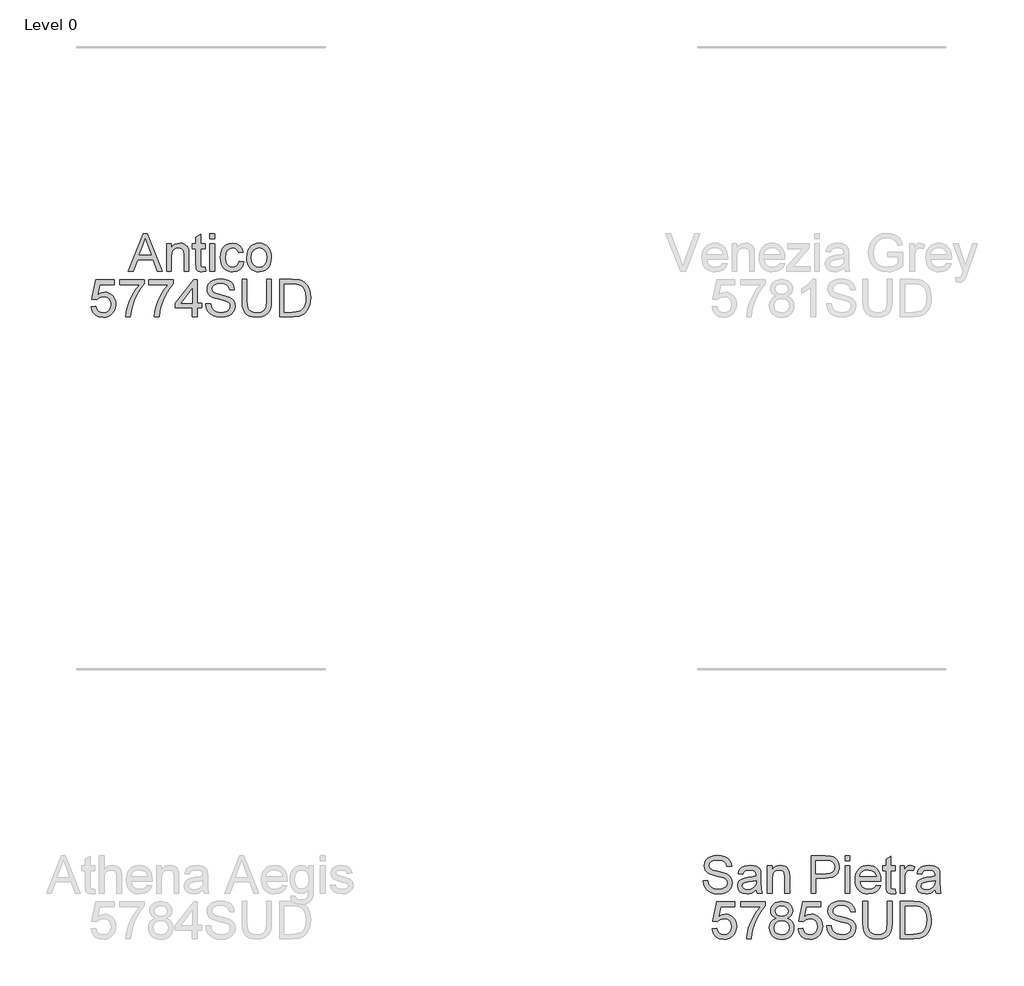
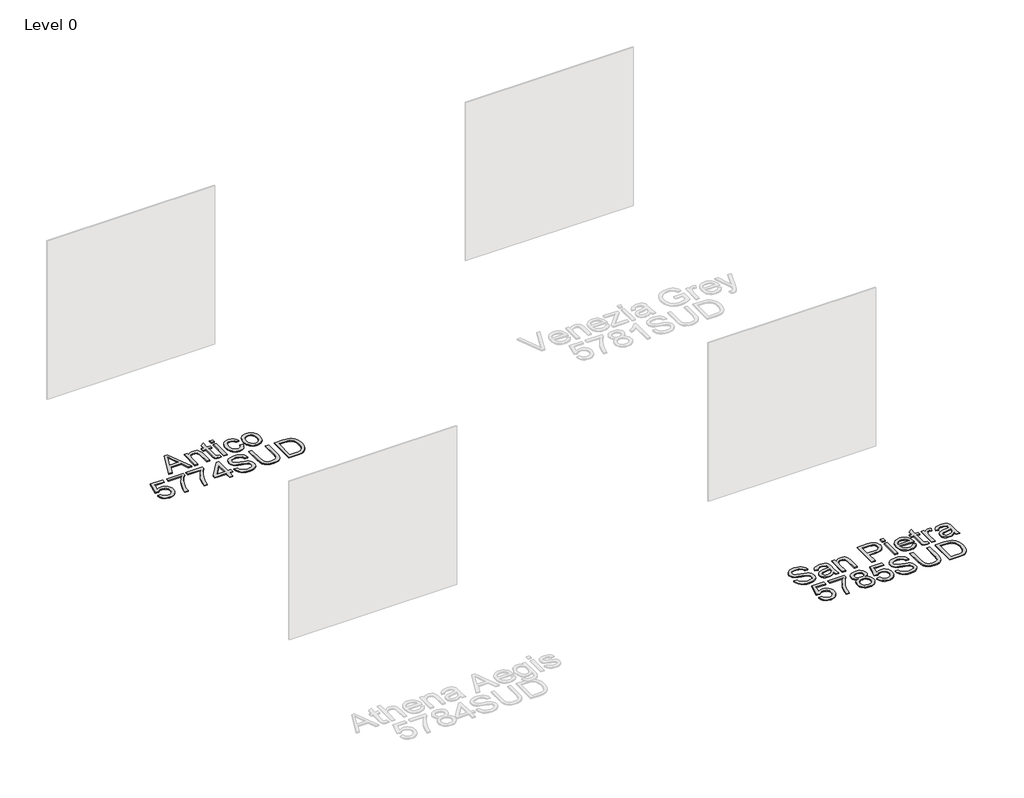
# One storey, part 3 of 12: 2 proxies.
"""IFC4 building model written with IfcOpenShell, lengths in millimetres."""

import ifcopenshell
import ifcopenshell.guid

model = None  # the IFC model being written
_history = None  # IfcOwnerHistory: only IFC2X3 demands one
_inside = {}  # id of a spatial element -> (the spatial element, [elements in it])
_under = {}  # id of a project, library or spatial element -> (it, [spatial elements below it])
_declared = {}  # id of a project -> (the project, [libraries it declares])
_typed = {}  # id of a type object -> (the type object, [elements of that type])
_made_of = {}  # id of a material, layer set ... -> (it, [elements and type objects made of it])


def new_model(schema):
    """Start an empty IFC model of exactly this schema.

    Asked for "IFC4X3", IfcOpenShell would pick the latest addendum, in which some entities
    have other attributes; the version numbers below select the first issue.
    IFC2X3 requires an IfcOwnerHistory on every rooted entity: one is made here for all.
    """
    global model, _history
    if schema == "IFC4X3":
        model = ifcopenshell.file(schema_version=(4, 3, 0, 0))
    else:
        model = ifcopenshell.file(schema=schema)
    _inside.clear()
    _under.clear()
    _declared.clear()
    _typed.clear()
    _made_of.clear()
    _history = None
    if model.schema == "IFC2X3":
        org = make("IfcOrganization", Name="unknown")
        user = make(
            "IfcPersonAndOrganization",
            ThePerson=make("IfcPerson", FamilyName="unknown"),
            TheOrganization=org,
        )
        app = make(
            "IfcApplication",
            ApplicationDeveloper=org,
            Version="unknown",
            ApplicationFullName="unknown",
            ApplicationIdentifier="unknown",
        )
        _history = make(
            "IfcOwnerHistory",
            OwningUser=user,
            OwningApplication=app,
            ChangeAction="ADDED",
            CreationDate=0,
        )
    return model


def make(cls, **values):
    """One entity of the class cls with the attributes given. An attribute that is None is left unset."""
    return model.create_entity(
        cls, **{name: value for name, value in values.items() if value is not None}
    )


def rooted(cls, **values):
    """An entity with a GlobalId (a new one), such as an element, a storey or a relation."""
    return make(cls, GlobalId=ifcopenshell.guid.new(), OwnerHistory=_history, **values)


def si_unit(unit_type, name, prefix=None):
    """IfcSIUnit, for example si_unit("LENGTHUNIT", "METRE", prefix="MILLI")."""
    return make("IfcSIUnit", UnitType=unit_type, Prefix=prefix, Name=name)


def assignment(units):
    """IfcUnitAssignment: the units of a project."""
    return None if units is None else make("IfcUnitAssignment", Units=units)


def point(xyz):
    """IfcCartesianPoint."""
    return None if xyz is None else make("IfcCartesianPoint", Coordinates=xyz)


def direction(xyz):
    """IfcDirection."""
    return None if xyz is None else make("IfcDirection", DirectionRatios=xyz)


def frame(location, z_axis=None, x_axis=None):
    """IfcAxis2Placement3D, a coordinate frame: its origin and axes. An axis left out is left unset."""
    return make(
        "IfcAxis2Placement3D",
        Location=point(location),
        Axis=direction(z_axis),
        RefDirection=direction(x_axis),
    )


def origin():
    """The frame at (0, 0, 0) with its axes left unset."""
    return frame((0.0, 0.0, 0.0))


def origin_with_axes():
    """The frame at (0, 0, 0) with the z axis (0, 0, 1) and the x axis (1, 0, 0) written out."""
    return frame((0.0, 0.0, 0.0), z_axis=(0.0, 0.0, 1.0), x_axis=(1.0, 0.0, 0.0))


def place(relative_to, where):
    """IfcLocalPlacement: puts the frame where relative to a parent placement (None: the world)."""
    return make(
        "IfcLocalPlacement", PlacementRelTo=relative_to, RelativePlacement=where
    )


def context(
    kind, dimensions, precision=None, world=None, true_north=None, identifier=None
):
    """IfcGeometricRepresentationContext, for example the 3D "Model" context."""
    return make(
        "IfcGeometricRepresentationContext",
        ContextIdentifier=identifier,
        ContextType=kind,
        CoordinateSpaceDimension=dimensions,
        Precision=precision,
        WorldCoordinateSystem=world,
        TrueNorth=true_north,
    )


def project(units=None, contexts=None):
    """IfcProject with its units and contexts."""
    return rooted(
        "IfcProject",
        Name="project",
        RepresentationContexts=contexts,
        UnitsInContext=assignment(units),
    )


def spatial(cls, under=None, at=None, **own):
    """A site, building, storey or space (cls), placed at a placement, below another one or the project."""
    s = rooted(cls, ObjectPlacement=at, **own)
    if under is not None:
        _under.setdefault(under.id(), (under, []))[1].append(s)
    return s


def polyline(points):
    """IfcPolyline through the points."""
    return make("IfcPolyline", Points=[point(p) for p in points])


def outline(outer, holes=None, kind="AREA"):
    """IfcArbitraryClosedProfileDef: a profile drawn as a closed curve; with holes, ...WithVoids."""
    if holes is None:
        return make("IfcArbitraryClosedProfileDef", ProfileType=kind, OuterCurve=outer)
    return make(
        "IfcArbitraryProfileDefWithVoids",
        ProfileType=kind,
        OuterCurve=outer,
        InnerCurves=holes,
    )


def extrude(swept, where, along, depth):
    """IfcExtrudedAreaSolid: the profile swept, set in the frame where, extruded along a direction by depth."""
    return make(
        "IfcExtrudedAreaSolid",
        SweptArea=swept,
        Position=where,
        ExtrudedDirection=direction(along),
        Depth=depth,
    )


def shape(context_of_items, identifier, shape_type, items):
    """IfcShapeRepresentation: the items that make up one representation, for example the "Body"."""
    return make(
        "IfcShapeRepresentation",
        ContextOfItems=context_of_items,
        RepresentationIdentifier=identifier,
        RepresentationType=shape_type,
        Items=items,
    )


def made_of(thing, what):
    """Note that an element or type object is made of a material, layer set ...; save() writes the relation."""
    if what is not None:
        _made_of.setdefault(what.id(), (what, []))[1].append(thing)
    return thing


def element(
    cls,
    number,
    at=None,
    inside=None,
    cuts=None,
    type_object=None,
    material=None,
    context=None,
    identifier="Body",
    shape_type=None,
    held_by="IfcProductDefinitionShape",
    body=None,
    shapes=None,
    **own,
):
    """One element of the class cls, such as IfcWall. Its Tag is "e" and its number.

    at: its placement. inside: the storey or other place that contains it. cuts: it is an
    opening in that element (IfcRelVoidsElement). A single representation is given by context,
    identifier, shape_type and body (its items); several are given by shapes. held_by: the class
    of the entity that holds the representations. save() writes the other relations.
    """
    e = rooted(cls, Tag="e%d" % number, ObjectPlacement=at, **own)
    if body is not None:
        shapes = [shape(context, identifier, shape_type, body)]
    if shapes is not None:
        e.Representation = make(held_by, Representations=shapes)
    if inside is not None:
        _inside.setdefault(inside.id(), (inside, []))[1].append(e)
    if cuts is not None:
        rooted(
            "IfcRelVoidsElement", RelatingBuildingElement=cuts, RelatedOpeningElement=e
        )
    if type_object is not None:
        _typed.setdefault(type_object.id(), (type_object, []))[1].append(e)
    return made_of(e, material)


def aggregate(whole, parts):
    """IfcRelAggregates: a whole, such as a stair, and the parts it consists of."""
    return rooted("IfcRelAggregates", RelatingObject=whole, RelatedObjects=parts)


def save(model, path):
    """Write the relations noted so far, then the file.

    IfcRelAggregates (storeys below a building ...), IfcRelContainedInSpatialStructure (elements
    in a storey), IfcRelDefinesByType, IfcRelAssociatesMaterial and IfcRelDeclares: one each for
    every whole, place, type object, material and project.
    """
    for whole, parts in _under.values():
        aggregate(whole, parts)
    for where, things in _inside.values():
        rooted(
            "IfcRelContainedInSpatialStructure",
            RelatedElements=things,
            RelatingStructure=where,
        )
    for kind, things in _typed.values():
        rooted("IfcRelDefinesByType", RelatedObjects=things, RelatingType=kind)
    for what, things in _made_of.values():
        rooted("IfcRelAssociatesMaterial", RelatedObjects=things, RelatingMaterial=what)
    for by, libraries in _declared.values():
        rooted("IfcRelDeclares", RelatingContext=by, RelatedDefinitions=libraries)
    model.write(path)


model = new_model("IFC4")

# Units and contexts
model_context = context("Model", 3, world=origin())
ifc_project = project(units=[si_unit("LENGTHUNIT", "METRE", prefix="MILLI")], contexts=[model_context])

# Site, building, storey
site = spatial("IfcSite", under=ifc_project)
building = spatial("IfcBuilding", under=site)
storey = spatial("IfcBuildingStorey", under=building, Name="Level 0", Elevation=0.0)

# Proxies
placement = place(None, origin())
element("IfcBuildingElementProxy", 1, Name="300mm Arial", ObjectType="300mm Arial", at=placement, inside=storey, context=model_context, shape_type="SweptSolid", body=[
    extrude(outline(polyline([(-10034.3396299, -12002.860494), (-9914.0422174, -11701.4915635), (-9881.9629075, -11701.4915635), (-9761.665495, -12002.860494), (-9801.4703269, -12002.860494), (-9835.9776581, -11908.6827032), (-9960.1010432, -11908.6827032), (-9994.534798, -12002.860494), (-10034.3396299, -12002.860494)]), holes=[polyline([(-9946.2686802, -11871.0115869), (-9849.7364447, -11871.0115869), (-9876.8861359, -11796.9201531), (-9898.0025624, -11739.1626798), (-9916.7645442, -11790.44543), (-9946.2686802, -11871.0115869)])]), origin_with_axes(), (0.0, 0.0, 1.0), 10.0),
    extrude(outline(polyline([(-9726.1280943, -12002.860494), (-9726.1280943, -11781.5426857), (-9688.456978, -11781.5426857), (-9688.456978, -11812.4447733), (-9675.369576, -11796.8649708), (-9659.6518178, -11785.7365404), (-9641.3037033, -11779.0594822), (-9620.3252325, -11776.8337961), (-9601.7563888, -11778.6272209), (-9584.7510435, -11784.0074951), (-9570.5691926, -11792.303234), (-9560.4708319, -11802.8430532), (-9549.1768546, -11830.5445674), (-9547.1902918, -11866.964885), (-9547.1902918, -12002.860494), (-9584.8614081, -12002.860494), (-9584.8614081, -11872.0416565), (-9589.2024157, -11838.7115477), (-9595.2080893, -11828.7879309), (-9604.5430949, -11821.0900002), (-9616.5084568, -11816.1511844), (-9630.4051992, -11814.5049125), (-9652.4689218, -11818.2021265), (-9671.2768888, -11829.2937687), (-9678.7931778, -11838.3482643), (-9684.1619557, -11850.7228949), (-9688.456978, -11885.4325611), (-9688.456978, -12002.860494), (-9726.1280943, -12002.860494)])), origin_with_axes(), (0.0, 0.0, 1.0), 10.0),
    extrude(outline(polyline([(-9415.3413848, -11971.4433716), (-9410.6324952, -12003.96414), (-9438.8122561, -12007.5693835), (-9456.8936561, -12006.005885), (-9470.3765312, -12001.3153896), (-9479.9046749, -11994.0865084), (-9486.1218806, -11984.9078526), (-9489.5431832, -11969.1441091), (-9490.6836174, -11942.1599648), (-9490.6836174, -11819.213802), (-9518.9369546, -11819.213802), (-9518.9369546, -11781.5426857), (-9490.6836174, -11781.5426857), (-9490.6836174, -11727.758338), (-9453.0125011, -11705.6118419), (-9453.0125011, -11781.5426857), (-9415.3413848, -11781.5426857), (-9415.3413848, -11819.213802), (-9453.0125011, -11819.213802), (-9453.0125011, -11941.0563188), (-9451.0259383, -11960.4804881), (-9444.5880034, -11967.3598814), (-9431.7489218, -11969.8982672), (-9415.3413848, -11971.4433716)])), origin_with_axes(), (0.0, 0.0, 1.0), 10.0),
    extrude(outline(polyline([(-9377.6702685, -11739.1626798), (-9377.6702685, -11701.4915635), (-9339.9991522, -11701.4915635), (-9339.9991522, -11739.1626798), (-9377.6702685, -11739.1626798)])), origin_with_axes(), (0.0, 0.0, 1.0), 10.0),
    extrude(outline(polyline([(-9377.6702685, -12002.860494), (-9377.6702685, -11781.5426857), (-9339.9991522, -11781.5426857), (-9339.9991522, -12002.860494), (-9377.6702685, -12002.860494)])), origin_with_axes(), (0.0, 0.0, 1.0), 10.0),
    extrude(outline(polyline([(-9142.2257916, -11922.8093718), (-9104.5546752, -11927.5182614), (-9115.0577062, -11961.0231141), (-9134.7945752, -11986.3425924), (-9161.9074783, -12002.2626857), (-9194.5386113, -12007.5693835), (-9215.6665341, -12005.7184772), (-9234.6101576, -12000.1657584), (-9251.3694817, -11990.9112269), (-9265.9445065, -11977.9548829), (-9277.7420223, -11961.5404481), (-9286.1688192, -11941.9116444), (-9291.2248974, -11919.0684718), (-9292.9102568, -11893.0109302), (-9290.0315802, -11859.4876834), (-9281.3955503, -11830.4342028), (-9266.8642115, -11806.9725286), (-9246.299608, -11790.2247008), (-9221.6974996, -11780.1815223), (-9195.0536461, -11776.8337961), (-9163.2226564, -11781.4323211), (-9137.7744194, -11795.2278959), (-9119.5182754, -11817.4847566), (-9109.2635648, -11847.4671392), (-9146.9346811, -11852.1760288), (-9153.7680891, -11835.7409006), (-9164.4090759, -11823.9594797), (-9178.26903, -11816.8685543), (-9194.7593405, -11814.5049125), (-9219.1039315, -11819.1586197), (-9238.4269333, -11833.1197414), (-9251.0360887, -11857.1424357), (-9255.2391405, -11891.9808606), (-9251.1280592, -11927.2883351), (-9238.7948153, -11951.3938029), (-9219.8213014, -11965.2721511), (-9195.78941, -11969.8982672), (-9176.2824673, -11967.0103936), (-9160.2887975, -11958.3467726), (-9148.6545294, -11943.6866751), (-9142.2257916, -11922.8093718)])), origin_with_axes(), (0.0, 0.0, 1.0), 10.0),
    extrude(outline(polyline([(-9081.0102276, -11892.2015898), (-9078.973081, -11863.5389839), (-9072.8616414, -11838.8403064), (-9062.6759086, -11818.1055575), (-9048.4158828, -11801.334737), (-9034.0592879, -11790.6155754), (-9018.212771, -11782.9590314), (-9000.876332, -11778.3651049), (-8982.0499709, -11776.8337961), (-8961.2669374, -11778.698498), (-8942.4750652, -11784.2926036), (-8925.6743544, -11793.6161129), (-8910.8648048, -11806.669026), (-8898.777582, -11823.0098843), (-8890.1438514, -11842.1972296), (-8884.9636131, -11864.2310619), (-8883.2368669, -11889.1113811), (-8886.2902875, -11927.1687735), (-8895.4505492, -11956.1394806), (-8910.4509375, -11977.8353213), (-8931.0247381, -11994.0681143), (-8955.4612996, -12004.1940662), (-8982.0499709, -12007.5693835), (-9003.136507, -12005.7115794), (-9022.1031231, -12000.1381672), (-9038.9498192, -11990.8491468), (-9053.6765953, -11977.8445183), (-9065.6350594, -11961.3450108), (-9074.1768195, -11941.5713536), (-9079.3018755, -11918.5235466), (-9081.0102276, -11892.2015898)]), holes=[polyline([(-9043.3391112, -11892.1280134), (-9038.9797096, -11926.2214773), (-9025.9015047, -11950.5108861), (-9006.2198179, -11965.0514219), (-8982.0499709, -11969.8982672), (-8957.9904884, -11965.0238308), (-8938.3455898, -11950.4005215), (-8925.2673849, -11925.789216), (-8920.9079833, -11890.950791), (-8925.294976, -11857.8506085), (-8938.4559544, -11833.8922936), (-8958.1284441, -11819.3517577), (-8982.0499709, -11814.5049125), (-9006.2198179, -11819.3333636), (-9025.9015047, -11833.8187172), (-9038.9797096, -11858.0529436), (-9043.3391112, -11892.1280134)])]), origin_with_axes(), (0.0, 0.0, 1.0), 10.0),
    extrude(outline(polyline([(-10333.5748447, -12288.7338254), (-10295.9037284, -12284.0249358), (-10288.9875469, -12306.6404815), (-10276.9210175, -12322.8364863), (-10259.7593224, -12332.5761621), (-10237.557644, -12335.8227207), (-10210.5551055, -12331.3069693), (-10190.3215958, -12317.7597148), (-10177.6848493, -12296.7444558), (-10173.4726004, -12269.8246908), (-10177.4181348, -12244.4776213), (-10189.254738, -12225.0902402), (-10209.0743805, -12212.7845875), (-10236.9690328, -12208.6827032), (-10255.2435709, -12210.3197781), (-10270.0416242, -12215.2310027), (-10291.1948389, -12232.2271509), (-10328.8659552, -12227.5182614), (-10295.9037284, -12072.1249066), (-10149.9281527, -12072.1249066), (-10149.9281527, -12109.7960229), (-10265.4430992, -12109.7960229), (-10281.5563306, -12192.790201), (-10254.6457627, -12176.4562404), (-10226.4476077, -12171.0115869), (-10208.1017925, -12172.6992456), (-10191.2504978, -12177.7622215), (-10175.8937238, -12186.2005148), (-10162.0314704, -12198.0141254), (-10150.5558514, -12212.4810848), (-10142.3589807, -12228.8794248), (-10137.4408583, -12247.2091452), (-10135.8014841, -12267.470246), (-10141.7059901, -12305.1413624), (-10149.0866227, -12321.9351754), (-10159.4195082, -12337.3678251), (-10175.0728871, -12353.1729553), (-10193.3382282, -12364.4623341), (-10214.2155314, -12371.2359613), (-10237.7047968, -12373.4938371), (-10274.7045285, -12367.6904986), (-10290.3831992, -12360.4363255), (-10304.1810733, -12350.2804832), (-10315.6612908, -12337.7288093), (-10324.3869919, -12323.2871418), (-10333.5748447, -12288.7338254)])), origin_with_axes(), (0.0, 0.0, 1.0), 10.0),
    extrude(outline(polyline([(-10102.8392574, -12109.7960229), (-10102.8392574, -12072.1249066), (-9905.0658967, -12072.1249066), (-9905.0658967, -12102.5855358), (-9933.2548546, -12138.2608923), (-9961.167901, -12183.6299393), (-9985.7884035, -12234.5540045), (-10004.0997299, -12286.8944154), (-10013.0760505, -12326.0554538), (-10018.0792457, -12368.7849475), (-10055.750362, -12368.7849475), (-10051.6760689, -12329.9550029), (-10040.7775648, -12283.8042066), (-10023.3491552, -12234.8850983), (-9999.6851459, -12187.7502177), (-9972.0572081, -12145.1402856), (-9942.7370131, -12109.7960229), (-10102.8392574, -12109.7960229)])), origin_with_axes(), (0.0, 0.0, 1.0), 10.0),
    extrude(outline(polyline([(-9872.10367, -12109.7960229), (-9872.10367, -12072.1249066), (-9674.3303094, -12072.1249066), (-9674.3303094, -12102.5855358), (-9702.5192673, -12138.2608923), (-9730.4323136, -12183.6299393), (-9755.0528162, -12234.5540045), (-9773.3641425, -12286.8944154), (-9782.3404632, -12326.0554538), (-9787.3436583, -12368.7849475), (-9825.0147746, -12368.7849475), (-9820.9404815, -12329.9550029), (-9810.0419774, -12283.8042066), (-9792.6135679, -12234.8850983), (-9768.9495585, -12187.7502177), (-9741.3216207, -12145.1402856), (-9712.0014257, -12109.7960229), (-9872.10367, -12109.7960229)])), origin_with_axes(), (0.0, 0.0, 1.0), 10.0),
    extrude(outline(polyline([(-9518.9369546, -12368.7849475), (-9518.9369546, -12298.1516044), (-9655.4947512, -12298.1516044), (-9655.4947512, -12260.4804881), (-9509.5191755, -12072.1249066), (-9481.2658383, -12072.1249066), (-9481.2658383, -12260.4804881), (-9443.594722, -12260.4804881), (-9443.594722, -12298.1516044), (-9481.2658383, -12298.1516044), (-9481.2658383, -12368.7849475), (-9518.9369546, -12368.7849475)]), holes=[polyline([(-9518.9369546, -12260.4804881), (-9518.9369546, -12144.0826249), (-9609.1416198, -12260.4804881), (-9518.9369546, -12260.4804881)])]), origin_with_axes(), (0.0, 0.0, 1.0), 10.0),
    extrude(outline(polyline([(-9410.6324952, -12265.1893777), (-9372.9613789, -12265.1893777), (-9368.6387655, -12286.0942721), (-9360.8212731, -12302.8972822), (-9348.6259849, -12316.2330045), (-9331.1699843, -12326.7360355), (-9309.8328286, -12333.5510494), (-9285.9940753, -12335.8227207), (-9265.0064074, -12334.1028724), (-9246.6307018, -12328.9433274), (-9231.740678, -12320.7763471), (-9221.2100559, -12310.0341929), (-9214.9468649, -12297.700949), (-9212.8591346, -12284.7606998), (-9214.4226331, -12272.1515444), (-9219.1131285, -12261.2530403), (-9228.6412722, -12251.9548229), (-9244.7177154, -12244.1465276), (-9299.5689209, -12229.7623415), (-9335.5753712, -12220.2433949), (-9358.6139811, -12211.1843008), (-9377.3667658, -12198.510766), (-9390.6565029, -12183.1516928), (-9398.5751628, -12165.4381747), (-9401.2147162, -12145.7013056), (-9397.9497634, -12123.637583), (-9388.1549053, -12103.0637824), (-9372.0876592, -12085.6261758), (-9350.0055424, -12072.9710352), (-9323.4996447, -12065.2731044), (-9294.1610556, -12062.7071275), (-9262.3760512, -12065.3926661), (-9234.5641723, -12073.4492818), (-9211.7187004, -12086.7114277), (-9194.8329169, -12105.013557), (-9184.1459449, -12127.2152354), (-9179.8969079, -12152.1760288), (-9217.5680242, -12152.1760288), (-9224.4842057, -12129.6984389), (-9238.9051799, -12113.4748429), (-9261.4379521, -12103.6523936), (-9292.6895276, -12100.3782438), (-9324.6768671, -12103.6156054), (-9346.6210281, -12113.3276901), (-9359.3129569, -12127.6199056), (-9363.5435998, -12144.5976597), (-9360.5453616, -12159.0738162), (-9351.5506468, -12170.7172813), (-9330.2870675, -12181.1283418), (-9290.0407772, -12191.7601314), (-9248.5069, -12201.8584922), (-9223.3805597, -12210.669266), (-9201.9054482, -12224.3360821), (-9186.923454, -12241.2034716), (-9178.1218772, -12261.0874934), (-9175.1880183, -12283.8042066), (-9178.5633356, -12307.0267576), (-9188.6892875, -12328.869751), (-9205.1520068, -12347.668521), (-9227.5376262, -12361.7584014), (-9254.4573912, -12370.5599781), (-9284.5225473, -12373.4938371), (-9321.4303085, -12370.3300519), (-9351.8081642, -12360.8386964), (-9376.0056024, -12344.9829824), (-9394.372111, -12322.7261217), (-9406.162729, -12295.6132187), (-9410.6324952, -12265.1893777)])), origin_with_axes(), (0.0, 0.0, 1.0), 10.0),
    extrude(outline(polyline([(-8920.9079833, -12067.4160171), (-8883.2368669, -12067.4160171), (-8883.2368669, -12241.277048), (-8885.7936468, -12281.9923878), (-8893.4639864, -12313.3451308), (-8907.7929901, -12337.533372), (-8930.3257623, -12356.7552063), (-8961.1174853, -12369.3091794), (-9000.2233414, -12373.4938371), (-9038.4738719, -12369.8518053), (-9069.0540627, -12358.92571), (-9091.973111, -12341.0926303), (-9107.2402138, -12316.7296452), (-9115.8210613, -12284.052527), (-9118.6813439, -12241.277048), (-9118.6813439, -12067.4160171), (-9081.0102276, -12067.4160171), (-9081.0102276, -12239.9526728), (-9079.1524235, -12273.8070134), (-9073.5790113, -12297.3790523), (-9063.4806505, -12313.7038158), (-9048.0480008, -12325.8163305), (-9027.9248556, -12333.3211232), (-9003.7550086, -12335.8227207), (-8965.4400988, -12330.8747079), (-8951.0972995, -12324.6896919), (-8939.9642706, -12316.0306694), (-8931.6271449, -12303.8537754), (-8925.6720551, -12287.1151446), (-8920.9079833, -12239.9526728), (-8920.9079833, -12067.4160171)])), origin_with_axes(), (0.0, 0.0, 1.0), 10.0),
    extrude(outline(polyline([(-8817.3124134, -12368.7849475), (-8817.3124134, -12067.4160171), (-8713.3489616, -12067.4160171), (-8659.5646139, -12071.7570246), (-8635.5419196, -12080.12634), (-8615.2716217, -12093.3149095), (-8594.4311066, -12116.270746), (-8579.5870681, -12144.8183889), (-8570.7027179, -12178.406015), (-8567.7412679, -12216.4818015), (-8569.7462248, -12248.8278259), (-8575.7610954, -12277.2926953), (-8584.9213571, -12301.5269217), (-8596.3624871, -12321.1810173), (-8609.5326625, -12336.6964405), (-8623.8800603, -12348.5146496), (-8640.3519767, -12357.2794381), (-8659.8957077, -12363.6345996), (-8708.3457664, -12368.7849475), (-8817.3124134, -12368.7849475)]), holes=[polyline([(-8779.6412971, -12331.1138312), (-8712.9810796, -12331.1138312), (-8685.408324, -12329.7526678), (-8664.4942326, -12325.6691777), (-8648.712095, -12319.1024841), (-8636.535201, -12310.2917103), (-8623.447799, -12293.9853408), (-8613.6161527, -12272.8781114), (-8607.4633263, -12246.8780514), (-8605.4123842, -12215.8931903), (-8609.431495, -12174.8375597), (-8621.4888274, -12144.5240833), (-8639.303513, -12123.7019623), (-8660.5946835, -12111.1203981), (-8682.262933, -12106.5954496), (-8714.0111492, -12105.0871334), (-8779.6412971, -12105.0871334), (-8779.6412971, -12331.1138312)])]), origin_with_axes(), (0.0, 0.0, 1.0), 10.0),
])
element("IfcBuildingElementProxy", 2, Name="300mm Arial", ObjectType="300mm Arial", at=placement, inside=storey, context=model_context, shape_type="SweptSolid", body=[
    extrude(outline(polyline([(-5406.5626326, -16909.2649241), (-5368.8915163, -16909.2649241), (-5364.5689028, -16930.1698185), (-5356.7514104, -16946.9728286), (-5344.5561223, -16960.308551), (-5327.1001216, -16970.8115819), (-5305.7629659, -16977.6265959), (-5281.9242126, -16979.8982672), (-5260.9365448, -16978.1784189), (-5242.5608391, -16973.0188739), (-5227.6708154, -16964.8518936), (-5217.1401933, -16954.1097394), (-5210.8770023, -16941.7764955), (-5208.789272, -16928.8362463), (-5210.3527704, -16916.2270909), (-5215.0432659, -16905.3285868), (-5224.5714096, -16896.0303694), (-5240.6478527, -16888.222074), (-5295.4990582, -16873.837888), (-5331.5055085, -16864.3189414), (-5354.5441185, -16855.2598472), (-5373.2969032, -16842.5863125), (-5386.5866402, -16827.2272392), (-5394.5053002, -16809.5137211), (-5397.1448535, -16789.7768521), (-5393.8799008, -16767.7131294), (-5384.0850427, -16747.1393289), (-5368.0177965, -16729.7017223), (-5345.9356798, -16717.0465817), (-5319.429782, -16709.3486509), (-5290.0911929, -16706.782674), (-5258.3061885, -16709.4682126), (-5230.4943097, -16717.5248283), (-5207.6488378, -16730.7869742), (-5190.7630542, -16749.0891034), (-5180.0760822, -16771.2907818), (-5175.8270452, -16796.2515752), (-5213.4981615, -16796.2515752), (-5220.414343, -16773.7739853), (-5234.8353172, -16757.5503893), (-5257.3680894, -16747.7279401), (-5288.6196649, -16744.4537903), (-5320.6070044, -16747.6911519), (-5342.5511654, -16757.4032365), (-5355.2430942, -16771.695452), (-5359.4737372, -16788.6732061), (-5356.4754989, -16803.1493626), (-5347.4807841, -16814.7928278), (-5326.2172048, -16825.2038882), (-5285.9709146, -16835.8356779), (-5244.4370373, -16845.9340387), (-5219.310697, -16854.7448125), (-5197.8355856, -16868.4116286), (-5182.8535913, -16885.2790181), (-5174.0520146, -16905.1630399), (-5171.1181557, -16927.8797531), (-5174.493473, -16951.102304), (-5184.6194249, -16972.9452975), (-5201.0821442, -16991.7440675), (-5223.4677636, -17005.8339479), (-5250.3875286, -17014.6355246), (-5280.4526846, -17017.5693835), (-5317.3604458, -17014.4055984), (-5347.7383015, -17004.9142429), (-5371.9357398, -16989.0585289), (-5390.3022484, -16966.8016682), (-5402.0928663, -16939.6887651), (-5406.5626326, -16909.2649241)])), origin_with_axes(), (0.0, 0.0, 1.0), 10.0),
    extrude(outline(polyline([(-4978.0536846, -16984.6071568), (-4996.0523112, -17000.0398064), (-5014.5843667, -17010.1381672), (-5034.0729154, -17015.7115794), (-5054.9410216, -17017.5693835), (-5086.4225233, -17013.0996173), (-5109.6450743, -16999.6903186), (-5123.9648809, -16979.3280501), (-5128.7381498, -16953.9993748), (-5126.935528, -16938.3827841), (-5121.5276627, -16924.2009331), (-5113.1859385, -16912.0608273), (-5102.58174, -16902.5694718), (-5076.2046009, -16890.2086368), (-5043.6102561, -16884.5432541), (-5005.0930112, -16878.5835657), (-4978.2744138, -16871.5938078), (-4978.0536846, -16863.2060983), (-4980.6472527, -16846.3938912), (-4988.4279569, -16835.3942195), (-5005.8287752, -16827.2272392), (-5030.0721987, -16824.5049125), (-5052.5130004, -16826.3167313), (-5068.1847734, -16831.7521878), (-5078.8717454, -16841.8045633), (-5086.358144, -16857.4671392), (-5124.0292603, -16852.7582497), (-5117.4901578, -16832.156858), (-5107.7320879, -16815.9700502), (-5093.8445426, -16803.590821), (-5074.9170139, -16794.4121652), (-5051.7680394, -16788.7283884), (-5025.2161564, -16786.8337961), (-4999.7495253, -16788.5076592), (-4979.5620008, -16793.5292485), (-4964.3408832, -16801.0800264), (-4953.7734729, -16810.3414556), (-4946.7653209, -16821.7917827), (-4942.2219783, -16835.9092543), (-4940.3825683, -16868.8714811), (-4940.3825683, -16915.7396473), (-4938.4695819, -16981.1858542), (-4930.9647892, -17012.860494), (-4968.6359055, -17012.860494), (-4978.0536846, -16984.6071568)]), holes=[polyline([(-4978.0536846, -16909.2649241), (-5038.8277902, -16920.8164188), (-5071.238194, -16926.9232599), (-5085.9166856, -16936.8560738), (-5091.0670335, -16951.3506244), (-5088.2619333, -16962.5526311), (-5079.8466327, -16971.7312869), (-5066.0050726, -16977.8565221), (-5046.9211941, -16979.8982672), (-5026.6876844, -16977.64499), (-5008.8086194, -16970.8851583), (-4994.3140688, -16960.9247533), (-4984.2341021, -16949.069756), (-4979.7643359, -16936.8560738), (-4978.2744138, -16919.933502), (-4978.0536846, -16909.2649241)])]), origin_with_axes(), (0.0, 0.0, 1.0), 10.0),
    extrude(outline(polyline([(-4888.5847834, -17012.860494), (-4888.5847834, -16791.5426857), (-4850.9136671, -16791.5426857), (-4850.9136671, -16822.4447733), (-4837.8262651, -16806.8649708), (-4822.1085068, -16795.7365404), (-4803.7603923, -16789.0594822), (-4782.7819216, -16786.8337961), (-4764.2130778, -16788.6272209), (-4747.2077326, -16794.0074951), (-4733.0258817, -16802.303234), (-4722.9275209, -16812.8430532), (-4711.6335437, -16840.5445674), (-4709.6469809, -16876.964885), (-4709.6469809, -17012.860494), (-4747.3180972, -17012.860494), (-4747.3180972, -16882.0416565), (-4751.6591048, -16848.7115477), (-4757.6647783, -16838.7879309), (-4766.999784, -16831.0900002), (-4778.9651459, -16826.1511844), (-4792.8618882, -16824.5049125), (-4814.9256109, -16828.2021265), (-4833.7335779, -16839.2937687), (-4841.2498669, -16848.3482643), (-4846.6186448, -16860.7228949), (-4850.9136671, -16895.4325611), (-4850.9136671, -17012.860494), (-4888.5847834, -17012.860494)])), origin_with_axes(), (0.0, 0.0, 1.0), 10.0),
    extrude(outline(polyline([(-4535.418068, -17012.860494), (-4535.418068, -16711.4915635), (-4423.7290943, -16711.4915635), (-4378.7003381, -16714.3610431), (-4358.6231782, -16719.7229232), (-4342.0960795, -16728.4509235), (-4328.7879484, -16740.9405172), (-4318.3676908, -16757.5871775), (-4311.6354503, -16777.222879), (-4309.3913702, -16798.6795964), (-4310.9065841, -16817.1794622), (-4315.452226, -16834.198603), (-4323.0282959, -16849.7370188), (-4333.6347936, -16863.7947095), (-4348.1960229, -16875.4473717), (-4367.636287, -16883.7707019), (-4391.9555862, -16888.7647), (-4421.1539203, -16890.429366), (-4497.7469517, -16890.429366), (-4497.7469517, -17012.860494), (-4535.418068, -17012.860494)]), holes=[polyline([(-4497.7469517, -16852.7582497), (-4418.9466283, -16852.7582497), (-4385.5429432, -16849.3001589), (-4363.4700235, -16838.9258867), (-4351.1643707, -16822.2792264), (-4347.0624865, -16800.0039716), (-4349.4813106, -16783.0813998), (-4356.7377829, -16768.8075784), (-4367.9305926, -16758.0654241), (-4382.1584288, -16751.7378538), (-4419.8295451, -16749.1626798), (-4497.7469517, -16749.1626798), (-4497.7469517, -16852.7582497)])]), origin_with_axes(), (0.0, 0.0, 1.0), 10.0),
    extrude(outline(polyline([(-4262.3024748, -16749.1626798), (-4262.3024748, -16711.4915635), (-4224.6313585, -16711.4915635), (-4224.6313585, -16749.1626798), (-4262.3024748, -16749.1626798)])), origin_with_axes(), (0.0, 0.0, 1.0), 10.0),
    extrude(outline(polyline([(-4262.3024748, -17012.860494), (-4262.3024748, -16791.5426857), (-4224.6313585, -16791.5426857), (-4224.6313585, -17012.860494), (-4262.3024748, -17012.860494)])), origin_with_axes(), (0.0, 0.0, 1.0), 10.0),
    extrude(outline(polyline([(-4013.1727876, -16946.9360404), (-3976.2374353, -16951.64493), (-3989.5455665, -16979.4752029), (-4010.7815547, -17000.2789297), (-4039.4671532, -17013.2467701), (-4075.1241156, -17017.5693835), (-4098.4984179, -17015.7046817), (-4119.3251374, -17010.1105761), (-4137.604274, -17000.7870668), (-4153.3358278, -16987.7341537), (-4165.9863699, -16971.3151204), (-4175.0224714, -16951.8932503), (-4180.4441323, -16929.4685435), (-4182.2513526, -16904.0409998), (-4180.4257382, -16877.7512327), (-4174.948895, -16854.5792656), (-4165.820823, -16834.5250983), (-4153.0415222, -16817.5887309), (-4137.3513551, -16804.133447), (-4119.4906842, -16794.5225298), (-4099.4595096, -16788.7559796), (-4077.2578312, -16786.8337961), (-4055.7712234, -16788.751381), (-4036.3401563, -16794.5041357), (-4018.9646298, -16804.0920602), (-4003.644644, -16817.5151545), (-3991.1389554, -16834.4147337), (-3982.2063207, -16854.4321128), (-3976.8467399, -16877.5672917), (-3975.0602129, -16903.8202706), (-3975.2809421, -16913.9738137), (-4144.5802363, -16913.9738137), (-4138.059528, -16942.1719686), (-4122.9119868, -16962.902119), (-4101.0505992, -16975.6492302), (-4074.3883516, -16979.8982672), (-4054.3387829, -16977.9300985), (-4037.4529993, -16972.0255925), (-4023.7310009, -16961.8168672), (-4013.1727876, -16946.9360404)]), holes=[polyline([(-4144.5802363, -16876.3026974), (-4012.7313292, -16876.3026974), (-4017.8264949, -16856.4002814), (-4027.8144911, -16842.1632482), (-4049.7770462, -16828.9194964), (-4077.404984, -16824.5049125), (-4102.7980387, -16828.0273826), (-4123.7949036, -16838.5947929), (-4138.3906218, -16855.0667092), (-4144.5802363, -16876.3026974)])]), origin_with_axes(), (0.0, 0.0, 1.0), 10.0),
    extrude(outline(polyline([(-3857.3379745, -16981.4433716), (-3852.6290849, -17013.96414), (-3880.8088458, -17017.5693835), (-3898.8902458, -17016.005885), (-3912.373121, -17011.3153896), (-3921.9012646, -17004.0865084), (-3928.1184704, -16994.9078526), (-3931.5397729, -16979.1441091), (-3932.6802071, -16952.1599648), (-3932.6802071, -16829.213802), (-3960.9335443, -16829.213802), (-3960.9335443, -16791.5426857), (-3932.6802071, -16791.5426857), (-3932.6802071, -16737.758338), (-3895.0090908, -16715.6118419), (-3895.0090908, -16791.5426857), (-3857.3379745, -16791.5426857), (-3857.3379745, -16829.213802), (-3895.0090908, -16829.213802), (-3895.0090908, -16951.0563188), (-3893.022528, -16970.4804881), (-3886.5845931, -16977.3598814), (-3873.7455115, -16979.8982672), (-3857.3379745, -16981.4433716)])), origin_with_axes(), (0.0, 0.0, 1.0), 10.0),
    extrude(outline(polyline([(-3819.6668582, -17012.860494), (-3819.6668582, -16791.5426857), (-3786.7046314, -16791.5426857), (-3786.7046314, -16824.2841833), (-3774.5277374, -16805.3014723), (-3763.3073365, -16794.1178596), (-3752.0501475, -16788.654812), (-3739.7628888, -16786.8337961), (-3721.0009071, -16789.7400639), (-3701.9446197, -16798.4588672), (-3714.526184, -16832.2304343), (-3727.7699358, -16826.4362929), (-3741.0136876, -16824.5049125), (-3752.2616796, -16826.3627165), (-3762.3140551, -16831.9361288), (-3770.4350502, -16840.8020848), (-3775.8889008, -16852.5375205), (-3780.4690316, -16873.5803706), (-3781.9957419, -16896.5362071), (-3781.9957419, -17012.860494), (-3819.6668582, -17012.860494)])), origin_with_axes(), (0.0, 0.0, 1.0), 10.0),
    extrude(outline(polyline([(-3537.1334859, -16984.6071568), (-3555.1321125, -17000.0398064), (-3573.664168, -17010.1381672), (-3593.1527167, -17015.7115794), (-3614.0208229, -17017.5693835), (-3645.5023246, -17013.0996173), (-3668.7248756, -16999.6903186), (-3683.0446822, -16979.3280501), (-3687.8179511, -16953.9993748), (-3686.0153293, -16938.3827841), (-3680.607464, -16924.2009331), (-3672.2657398, -16912.0608273), (-3661.6615413, -16902.5694718), (-3635.2844022, -16890.2086368), (-3602.6900574, -16884.5432541), (-3564.1728125, -16878.5835657), (-3537.3542151, -16871.5938078), (-3537.1334859, -16863.2060983), (-3539.727054, -16846.3938912), (-3547.5077581, -16835.3942195), (-3564.9085765, -16827.2272392), (-3589.152, -16824.5049125), (-3611.5928017, -16826.3167313), (-3627.2645747, -16831.7521878), (-3637.9515467, -16841.8045633), (-3645.4379453, -16857.4671392), (-3683.1090616, -16852.7582497), (-3676.5699591, -16832.156858), (-3666.8118892, -16815.9700502), (-3652.9243439, -16803.590821), (-3633.9968152, -16794.4121652), (-3610.8478407, -16788.7283884), (-3584.2959577, -16786.8337961), (-3558.8293265, -16788.5076592), (-3538.6418021, -16793.5292485), (-3523.4206845, -16801.0800264), (-3512.8532742, -16810.3414556), (-3505.8451222, -16821.7917827), (-3501.3017796, -16835.9092543), (-3499.4623696, -16868.8714811), (-3499.4623696, -16915.7396473), (-3497.5493832, -16981.1858542), (-3490.0445905, -17012.860494), (-3527.7157068, -17012.860494), (-3537.1334859, -16984.6071568)]), holes=[polyline([(-3537.1334859, -16909.2649241), (-3597.9075915, -16920.8164188), (-3630.3179953, -16926.9232599), (-3644.9964869, -16936.8560738), (-3650.1468348, -16951.3506244), (-3647.3417346, -16962.5526311), (-3638.9264339, -16971.7312869), (-3625.0848739, -16977.8565221), (-3606.0009954, -16979.8982672), (-3585.7674856, -16977.64499), (-3567.8884207, -16970.8851583), (-3553.3938701, -16960.9247533), (-3543.3139034, -16949.069756), (-3538.8441372, -16936.8560738), (-3537.3542151, -16919.933502), (-3537.1334859, -16909.2649241)])]), origin_with_axes(), (0.0, 0.0, 1.0), 10.0),
    extrude(outline(polyline([(-5333.5748447, -17298.7338254), (-5295.9037284, -17294.0249358), (-5288.9875469, -17316.6404815), (-5276.9210175, -17332.8364863), (-5259.7593224, -17342.5761621), (-5237.557644, -17345.8227207), (-5210.5551055, -17341.3069693), (-5190.3215958, -17327.7597148), (-5177.6848493, -17306.7444558), (-5173.4726004, -17279.8246908), (-5177.4181348, -17254.4776213), (-5189.254738, -17235.0902402), (-5209.0743805, -17222.7845875), (-5236.9690328, -17218.6827032), (-5255.2435709, -17220.3197781), (-5270.0416242, -17225.2310027), (-5291.1948389, -17242.2271509), (-5328.8659552, -17237.5182614), (-5295.9037284, -17082.1249066), (-5149.9281527, -17082.1249066), (-5149.9281527, -17119.7960229), (-5265.4430992, -17119.7960229), (-5281.5563306, -17202.790201), (-5254.6457627, -17186.4562404), (-5226.4476077, -17181.0115869), (-5208.1017925, -17182.6992456), (-5191.2504978, -17187.7622215), (-5175.8937238, -17196.2005148), (-5162.0314704, -17208.0141254), (-5150.5558514, -17222.4810848), (-5142.3589807, -17238.8794248), (-5137.4408583, -17257.2091452), (-5135.8014841, -17277.470246), (-5141.7059901, -17315.1413624), (-5149.0866227, -17331.9351754), (-5159.4195082, -17347.3678251), (-5175.0728871, -17363.1729553), (-5193.3382282, -17374.4623341), (-5214.2155314, -17381.2359613), (-5237.7047968, -17383.4938371), (-5274.7045285, -17377.6904986), (-5290.3831992, -17370.4363255), (-5304.1810733, -17360.2804832), (-5315.6612908, -17347.7288093), (-5324.3869919, -17333.2871418), (-5333.5748447, -17298.7338254)])), origin_with_axes(), (0.0, 0.0, 1.0), 10.0),
    extrude(outline(polyline([(-5102.8392574, -17119.7960229), (-5102.8392574, -17082.1249066), (-4905.0658967, -17082.1249066), (-4905.0658967, -17112.5855358), (-4933.2548546, -17148.2608923), (-4961.167901, -17193.6299393), (-4985.7884035, -17244.5540045), (-5004.0997299, -17296.8944154), (-5013.0760505, -17336.0554538), (-5018.0792457, -17378.7849475), (-5055.750362, -17378.7849475), (-5051.6760689, -17339.9550029), (-5040.7775648, -17293.8042066), (-5023.3491552, -17244.8850983), (-4999.6851459, -17197.7502177), (-4972.0572081, -17155.1402856), (-4942.7370131, -17119.7960229), (-5102.8392574, -17119.7960229)])), origin_with_axes(), (0.0, 0.0, 1.0), 10.0),
    extrude(outline(polyline([(-4817.2156763, -17212.7965913), (-4837.3848067, -17202.8637774), (-4851.5390665, -17189.3992964), (-4859.8991848, -17172.6790597), (-4862.6858909, -17152.9789789), (-4861.1683777, -17137.6153071), (-4856.615838, -17123.5300252), (-4849.0282718, -17110.7231332), (-4838.4056792, -17099.1946312), (-4825.2584964, -17089.6664875), (-4810.0971597, -17082.8606706), (-4773.7320245, -17077.4160171), (-4737.1461601, -17082.9894293), (-4721.8192764, -17089.9561946), (-4708.4697585, -17099.709666), (-4697.6540279, -17111.4634957), (-4689.928506, -17124.4313361), (-4685.2931928, -17138.613187), (-4683.7480885, -17154.0090485), (-4686.4980064, -17173.0745329), (-4694.7477601, -17189.509661), (-4708.5893202, -17202.8913686), (-4728.1146571, -17212.7965913), (-4704.9288943, -17224.7435591), (-4688.0523078, -17242.3375155), (-4677.760809, -17264.732332), (-4674.3303094, -17291.0818799), (-4676.0317636, -17309.8714528), (-4681.1361263, -17327.0975272), (-4689.6433974, -17342.7601031), (-4701.553577, -17356.8591806), (-4716.2412657, -17368.5118428), (-4733.081064, -17376.8351729), (-4752.072972, -17381.829171), (-4773.2169897, -17383.4938371), (-4794.3610074, -17381.8222732), (-4813.3529154, -17376.8075818), (-4830.1927137, -17368.4497627), (-4844.8804023, -17356.748816), (-4856.7905819, -17342.5508703), (-4865.2978531, -17326.702054), (-4870.4022158, -17309.2023674), (-4872.10367, -17290.0518103), (-4868.5352146, -17262.6813898), (-4857.8298486, -17240.1670117), (-4840.5393948, -17223.2812282), (-4817.2156763, -17212.7965913)]), holes=[polyline([(-4825.0147746, -17154.0826249), (-4821.6762455, -17170.52695), (-4811.6606582, -17183.6603373), (-4795.2623182, -17192.268776), (-4772.7755313, -17195.1382555), (-4750.8129762, -17192.2871701), (-4734.6629566, -17183.7339137), (-4724.7301427, -17171.0419848), (-4721.4192048, -17155.774882), (-4724.8405073, -17139.9283651), (-4735.104415, -17126.822569), (-4751.4751638, -17118.0209923), (-4773.2169897, -17115.0871334), (-4795.0967713, -17117.9566129), (-4811.439929, -17126.5650516), (-4821.6210632, -17139.1834041), (-4825.0147746, -17154.0826249)]), polyline([(-4834.4325537, -17288.7274351), (-4828.1417716, -17317.0911369), (-4819.4321653, -17329.2588339), (-4805.8849109, -17338.317928), (-4789.6613149, -17343.9465226), (-4772.9226841, -17345.8227207), (-4747.281309, -17341.8771864), (-4728.0410807, -17330.0405832), (-4716.0113394, -17312.1155329), (-4712.0014257, -17289.9046575), (-4716.1400981, -17267.316703), (-4728.5561155, -17248.9961796), (-4748.2378022, -17236.8560738), (-4774.1734829, -17232.8093718), (-4799.456173, -17236.8008915), (-4818.5032633, -17248.7754504), (-4830.4502311, -17266.7464859), (-4834.4325537, -17288.7274351)])]), origin_with_axes(), (0.0, 0.0, 1.0), 10.0),
    extrude(outline(polyline([(-4641.3680826, -17298.7338254), (-4603.6969663, -17294.0249358), (-4596.7807848, -17316.6404815), (-4584.7142553, -17332.8364863), (-4567.5525603, -17342.5761621), (-4545.3508819, -17345.8227207), (-4518.3483434, -17341.3069693), (-4498.1148337, -17327.7597148), (-4485.4780872, -17306.7444558), (-4481.2658383, -17279.8246908), (-4485.2113727, -17254.4776213), (-4497.0479759, -17235.0902402), (-4516.8676184, -17222.7845875), (-4544.7622707, -17218.6827032), (-4563.0368088, -17220.3197781), (-4577.834862, -17225.2310027), (-4598.9880768, -17242.2271509), (-4636.6591931, -17237.5182614), (-4603.6969663, -17082.1249066), (-4457.7213906, -17082.1249066), (-4457.7213906, -17119.7960229), (-4573.2363371, -17119.7960229), (-4589.3495685, -17202.790201), (-4562.4390005, -17186.4562404), (-4534.2408456, -17181.0115869), (-4515.8950304, -17182.6992456), (-4499.0437357, -17187.7622215), (-4483.6869617, -17196.2005148), (-4469.8247083, -17208.0141254), (-4458.3490893, -17222.4810848), (-4450.1522186, -17238.8794248), (-4445.2340961, -17257.2091452), (-4443.594722, -17277.470246), (-4449.499228, -17315.1413624), (-4456.8798606, -17331.9351754), (-4467.2127461, -17347.3678251), (-4482.866125, -17363.1729553), (-4501.131466, -17374.4623341), (-4522.0087693, -17381.2359613), (-4545.4980347, -17383.4938371), (-4582.4977663, -17377.6904986), (-4598.1764371, -17370.4363255), (-4611.9743112, -17360.2804832), (-4623.4545287, -17347.7288093), (-4632.1802298, -17333.2871418), (-4641.3680826, -17298.7338254)])), origin_with_axes(), (0.0, 0.0, 1.0), 10.0),
    extrude(outline(polyline([(-4410.6324952, -17275.1893777), (-4372.9613789, -17275.1893777), (-4368.6387655, -17296.0942721), (-4360.8212731, -17312.8972822), (-4348.6259849, -17326.2330045), (-4331.1699843, -17336.7360355), (-4309.8328286, -17343.5510494), (-4285.9940753, -17345.8227207), (-4265.0064074, -17344.1028724), (-4246.6307018, -17338.9433274), (-4231.740678, -17330.7763471), (-4221.2100559, -17320.0341929), (-4214.9468649, -17307.700949), (-4212.8591346, -17294.7606998), (-4214.4226331, -17282.1515444), (-4219.1131285, -17271.2530403), (-4228.6412722, -17261.9548229), (-4244.7177154, -17254.1465276), (-4299.5689209, -17239.7623415), (-4335.5753712, -17230.2433949), (-4358.6139811, -17221.1843008), (-4377.3667658, -17208.510766), (-4390.6565029, -17193.1516928), (-4398.5751628, -17175.4381747), (-4401.2147162, -17155.7013056), (-4397.9497634, -17133.637583), (-4388.1549053, -17113.0637824), (-4372.0876592, -17095.6261758), (-4350.0055424, -17082.9710352), (-4323.4996447, -17075.2731044), (-4294.1610556, -17072.7071275), (-4262.3760512, -17075.3926661), (-4234.5641723, -17083.4492818), (-4211.7187004, -17096.7114277), (-4194.8329169, -17115.013557), (-4184.1459449, -17137.2152354), (-4179.8969079, -17162.1760288), (-4217.5680242, -17162.1760288), (-4224.4842057, -17139.6984389), (-4238.9051799, -17123.4748429), (-4261.4379521, -17113.6523936), (-4292.6895276, -17110.3782438), (-4324.6768671, -17113.6156054), (-4346.6210281, -17123.3276901), (-4359.3129569, -17137.6199056), (-4363.5435998, -17154.5976597), (-4360.5453616, -17169.0738162), (-4351.5506468, -17180.7172813), (-4330.2870675, -17191.1283418), (-4290.0407772, -17201.7601314), (-4248.5069, -17211.8584922), (-4223.3805597, -17220.669266), (-4201.9054482, -17234.3360821), (-4186.923454, -17251.2034716), (-4178.1218772, -17271.0874934), (-4175.1880183, -17293.8042066), (-4178.5633356, -17317.0267576), (-4188.6892875, -17338.869751), (-4205.1520068, -17357.668521), (-4227.5376262, -17371.7584014), (-4254.4573912, -17380.5599781), (-4284.5225473, -17383.4938371), (-4321.4303085, -17380.3300519), (-4351.8081642, -17370.8386964), (-4376.0056024, -17354.9829824), (-4394.372111, -17332.7261217), (-4406.162729, -17305.6132187), (-4410.6324952, -17275.1893777)])), origin_with_axes(), (0.0, 0.0, 1.0), 10.0),
    extrude(outline(polyline([(-3920.9079833, -17077.4160171), (-3883.2368669, -17077.4160171), (-3883.2368669, -17251.277048), (-3885.7936468, -17291.9923878), (-3893.4639864, -17323.3451308), (-3907.7929901, -17347.533372), (-3930.3257623, -17366.7552063), (-3961.1174853, -17379.3091794), (-4000.2233414, -17383.4938371), (-4038.4738719, -17379.8518053), (-4069.0540627, -17368.92571), (-4091.973111, -17351.0926303), (-4107.2402138, -17326.7296452), (-4115.8210613, -17294.052527), (-4118.6813439, -17251.277048), (-4118.6813439, -17077.4160171), (-4081.0102276, -17077.4160171), (-4081.0102276, -17249.9526728), (-4079.1524235, -17283.8070134), (-4073.5790113, -17307.3790523), (-4063.4806505, -17323.7038158), (-4048.0480008, -17335.8163305), (-4027.9248556, -17343.3211232), (-4003.7550086, -17345.8227207), (-3965.4400988, -17340.8747079), (-3951.0972995, -17334.6896919), (-3939.9642706, -17326.0306694), (-3931.6271449, -17313.8537754), (-3925.6720551, -17297.1151446), (-3920.9079833, -17249.9526728), (-3920.9079833, -17077.4160171)])), origin_with_axes(), (0.0, 0.0, 1.0), 10.0),
    extrude(outline(polyline([(-3817.3124134, -17378.7849475), (-3817.3124134, -17077.4160171), (-3713.3489616, -17077.4160171), (-3659.5646139, -17081.7570246), (-3635.5419196, -17090.12634), (-3615.2716217, -17103.3149095), (-3594.4311066, -17126.270746), (-3579.5870681, -17154.8183889), (-3570.7027179, -17188.406015), (-3567.7412679, -17226.4818015), (-3569.7462248, -17258.8278259), (-3575.7610954, -17287.2926953), (-3584.9213571, -17311.5269217), (-3596.3624871, -17331.1810173), (-3609.5326625, -17346.6964405), (-3623.8800603, -17358.5146496), (-3640.3519767, -17367.2794381), (-3659.8957077, -17373.6345996), (-3708.3457664, -17378.7849475), (-3817.3124134, -17378.7849475)]), holes=[polyline([(-3779.6412971, -17341.1138312), (-3712.9810796, -17341.1138312), (-3685.408324, -17339.7526678), (-3664.4942326, -17335.6691777), (-3648.712095, -17329.1024841), (-3636.535201, -17320.2917103), (-3623.447799, -17303.9853408), (-3613.6161527, -17282.8781114), (-3607.4633263, -17256.8780514), (-3605.4123842, -17225.8931903), (-3609.431495, -17184.8375597), (-3621.4888274, -17154.5240833), (-3639.303513, -17133.7019623), (-3660.5946835, -17121.1203981), (-3682.262933, -17116.5954496), (-3714.0111492, -17115.0871334), (-3779.6412971, -17115.0871334), (-3779.6412971, -17341.1138312)])]), origin_with_axes(), (0.0, 0.0, 1.0), 10.0),
])

save(model, "model.ifc")
